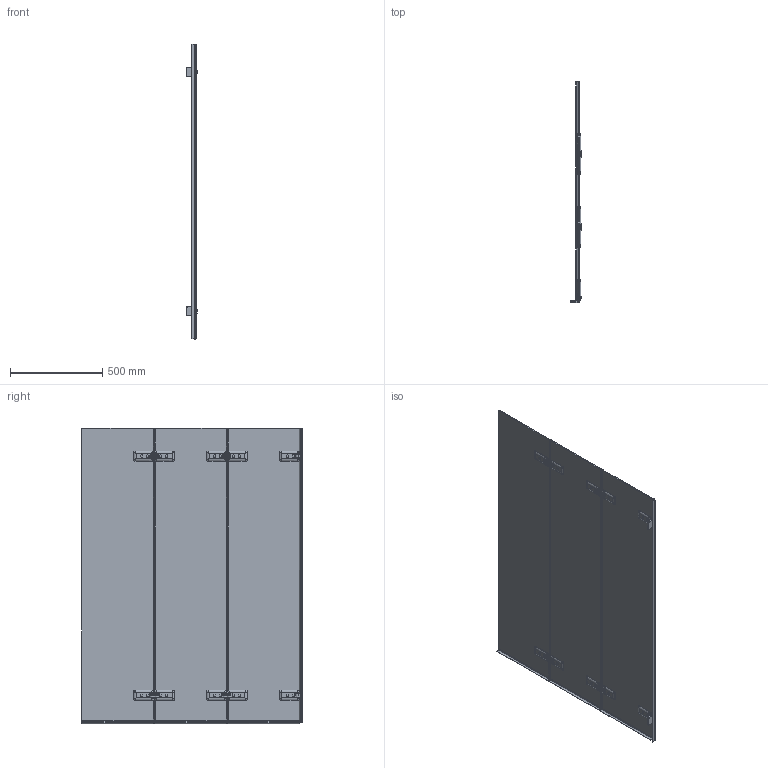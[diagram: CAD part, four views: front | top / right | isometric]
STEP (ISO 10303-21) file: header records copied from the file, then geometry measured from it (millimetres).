
FILE_DESCRIPTION(/* description */ (''),/* implementation_level */ '2;1');
FILE_NAME(/* name */ 'D:\!\TREND PEARL GV-863\TREND PEARL GV-863 левая модель\TREND PEARL GV-863 ЛЕВАЯ-3D.stp',/* time_stamp */ '2019-08-06T18:28:13+03:00',/* author */ ('User'),/* organization */ (''),/* preprocessor_version */ 'ST-DEVELOPER v15.2',/* originating_system */ 'Autodesk Inventor 2014',/* authorisation */ '');
FILE_SCHEMA (('CONFIG_CONTROL_DESIGN'));
Products named in the file (1): TREND PEARL GV-863 ЛЕВАЯ-3D
Bounding box: 59.5 x 1198.7 x 1603.39 mm (x, y, z)
Volume: 12532382.2 mm3; surface area: 4265358.9 mm2
Topology: 1 solids, 20 shells, 2184 faces, 5984 edges, 3806 vertices
Faces by surface type: plane 1267, cylinder 615, bspline 220, cone 42, torus 20, sphere 20
Full cylindrical faces by diameter (mm): 6 x8, 9 x16, 12 x2, 13 x10, 16 x10
Entity records: 100412 total; most frequent: CARTESIAN_POINT 43764, ORIENTED_EDGE 11604, DIRECTION 10943, EDGE_CURVE 5802, VERTEX_POINT 3780, AXIS2_PLACEMENT_3D 3687, LINE 3569, VECTOR 3569
